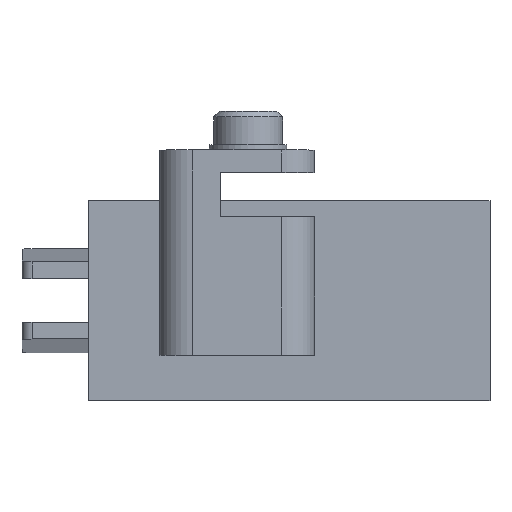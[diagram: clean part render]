
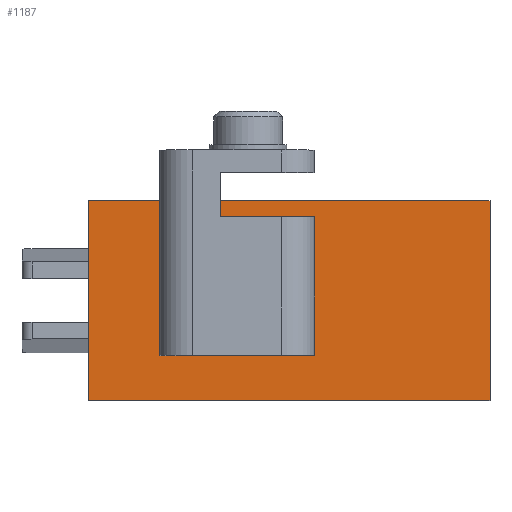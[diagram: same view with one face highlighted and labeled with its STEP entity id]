
A CAD part, top view. The second image highlights one B-rep face of the part: STEP entity #1187.
In plain terms, the highlighted planar face has unit normal (0, 0, 1).
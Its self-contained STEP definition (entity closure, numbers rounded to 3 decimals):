
#122=DIRECTION('',(0.,1.,0.));
#123=VECTOR('',#122,18.);
#124=CARTESIAN_POINT('',(-14.38,-9.,44.));
#125=LINE('',#124,#123);
#200=DIRECTION('',(1.,0.,0.));
#201=VECTOR('',#200,8.5);
#202=CARTESIAN_POINT('',(-2.5,7.5,44.));
#203=LINE('',#202,#201);
#212=DIRECTION('',(-1.,0.,0.));
#213=VECTOR('',#212,24.3);
#214=CARTESIAN_POINT('',(21.8,9.,44.));
#215=LINE('',#214,#213);
#220=DIRECTION('',(-1.,0.,0.));
#221=VECTOR('',#220,6.38);
#222=CARTESIAN_POINT('',(-8.,9.,44.));
#223=LINE('',#222,#221);
#286=DIRECTION('',(0.,-1.,0.));
#287=VECTOR('',#286,18.);
#288=CARTESIAN_POINT('',(21.8,9.,44.));
#289=LINE('',#288,#287);
#324=DIRECTION('',(1.,0.,0.));
#325=VECTOR('',#324,36.18);
#326=CARTESIAN_POINT('',(-14.38,-9.,44.));
#327=LINE('',#326,#325);
#392=DIRECTION('',(0.,1.,0.));
#393=VECTOR('',#392,1.5);
#394=CARTESIAN_POINT('',(-2.5,7.5,44.));
#395=LINE('',#394,#393);
#427=DIRECTION('',(1.,0.,0.));
#428=VECTOR('',#427,14.);
#429=CARTESIAN_POINT('',(-8.,-5.,44.));
#430=LINE('',#429,#428);
#524=DIRECTION('',(0.,-1.,0.));
#525=VECTOR('',#524,14.);
#526=CARTESIAN_POINT('',(-8.,9.,44.));
#527=LINE('',#526,#525);
#540=DIRECTION('',(0.,1.,0.));
#541=VECTOR('',#540,12.5);
#542=CARTESIAN_POINT('',(6.,-5.,44.));
#543=LINE('',#542,#541);
#752=CARTESIAN_POINT('',(-8.,-5.,44.));
#753=CARTESIAN_POINT('',(6.,-5.,44.));
#754=VERTEX_POINT('',#752);
#755=VERTEX_POINT('',#753);
#756=CARTESIAN_POINT('',(-8.,9.,44.));
#757=VERTEX_POINT('',#756);
#856=CARTESIAN_POINT('',(-14.38,-9.,44.));
#857=CARTESIAN_POINT('',(-14.38,9.,44.));
#858=VERTEX_POINT('',#856);
#859=VERTEX_POINT('',#857);
#888=CARTESIAN_POINT('',(-2.5,9.,44.));
#890=VERTEX_POINT('',#888);
#904=CARTESIAN_POINT('',(6.,7.5,44.));
#905=VERTEX_POINT('',#904);
#906=CARTESIAN_POINT('',(-2.5,7.5,44.));
#907=VERTEX_POINT('',#906);
#944=CARTESIAN_POINT('',(21.8,9.,44.));
#945=CARTESIAN_POINT('',(21.8,-9.,44.));
#946=VERTEX_POINT('',#944);
#947=VERTEX_POINT('',#945);
#1161=CARTESIAN_POINT('',(1.25,4.,44.));
#1162=DIRECTION('',(0.,0.,1.));
#1163=DIRECTION('',(1.,0.,0.));
#1164=AXIS2_PLACEMENT_3D('',#1161,#1162,#1163);
#1165=PLANE('',#1164);
#1167=ORIENTED_EDGE('',*,*,#1166,.F.);
#1169=ORIENTED_EDGE('',*,*,#1168,.T.);
#1171=ORIENTED_EDGE('',*,*,#1170,.F.);
#1172=ORIENTED_EDGE('',*,*,#1125,.T.);
#1174=ORIENTED_EDGE('',*,*,#1173,.F.);
#1176=ORIENTED_EDGE('',*,*,#1175,.T.);
#1178=ORIENTED_EDGE('',*,*,#1177,.T.);
#1180=ORIENTED_EDGE('',*,*,#1179,.T.);
#1182=ORIENTED_EDGE('',*,*,#1181,.F.);
#1184=ORIENTED_EDGE('',*,*,#1183,.T.);
#1185=EDGE_LOOP('',(#1167,#1169,#1171,#1172,#1174,#1176,#1178,#1180,#1182,
#1184));
#1186=FACE_OUTER_BOUND('',#1185,.F.);
#1187=ADVANCED_FACE('',(#1186),#1165,.T.);
#1125=EDGE_CURVE('',#858,#859,#125,.T.);
#1166=EDGE_CURVE('',#946,#890,#215,.T.);
#1168=EDGE_CURVE('',#946,#947,#289,.T.);
#1170=EDGE_CURVE('',#858,#947,#327,.T.);
#1173=EDGE_CURVE('',#757,#859,#223,.T.);
#1175=EDGE_CURVE('',#757,#754,#527,.T.);
#1177=EDGE_CURVE('',#754,#755,#430,.T.);
#1179=EDGE_CURVE('',#755,#905,#543,.T.);
#1181=EDGE_CURVE('',#907,#905,#203,.T.);
#1183=EDGE_CURVE('',#907,#890,#395,.T.);
